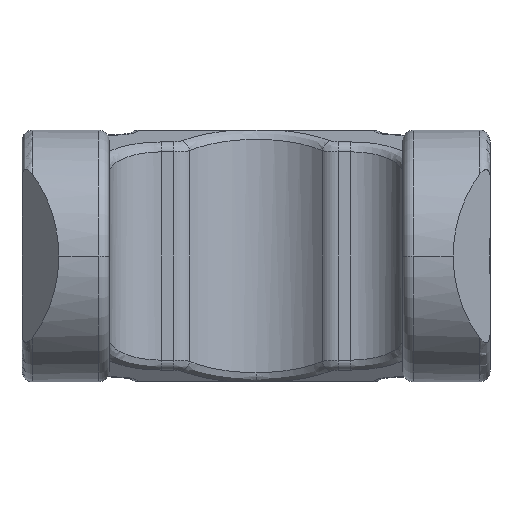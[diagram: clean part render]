
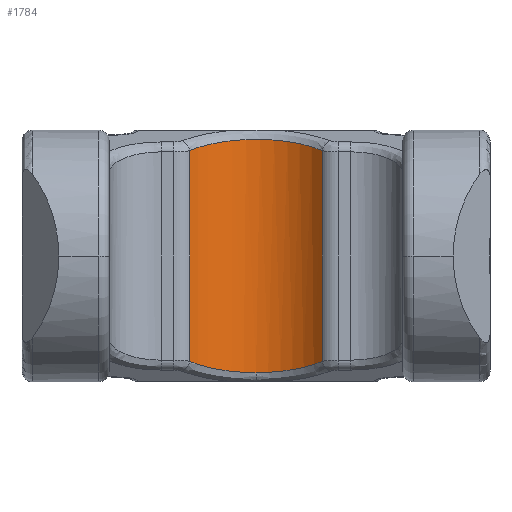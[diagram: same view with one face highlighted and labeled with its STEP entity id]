
A CAD part, front view. The second image highlights one B-rep face of the part: STEP entity #1784.
In plain terms, the highlighted cylindrical face has radius 8.5 mm (diameter 17 mm), a partial arc.
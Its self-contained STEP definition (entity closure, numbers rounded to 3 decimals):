
#85 = AXIS2_PLACEMENT_3D ( 'NONE', #1493, #1790, #187 ) ;
#187 = DIRECTION ( 'NONE',  ( 1., 0., 0. ) ) ;
#280 = CARTESIAN_POINT ( 'NONE',  ( -22.3, -8.5, 1677.476 ) ) ;
#406 = CARTESIAN_POINT ( 'NONE',  ( -15.964, -11.333, 1698.624 ) ) ;
#638 =( BOUNDED_CURVE ( )  B_SPLINE_CURVE ( 3, ( #2641, #2909, #2259, #280 ),
 .UNSPECIFIED., .F., .F. ) 
 B_SPLINE_CURVE_WITH_KNOTS ( ( 4, 4 ),
 ( 5.442, 6.283 ),
 .UNSPECIFIED. ) 
 CURVE ( )  GEOMETRIC_REPRESENTATION_ITEM ( )  RATIONAL_B_SPLINE_CURVE ( ( 1., 0.942, 0.942, 1. ) ) 
 REPRESENTATION_ITEM ( '' )  );
#682 = CARTESIAN_POINT ( 'NONE',  ( -28.636, -11.333, 1678.555 ) ) ;
#765 = CARTESIAN_POINT ( 'NONE',  ( -28.636, -11.333, 1707.59 ) ) ;
#777 = CARTESIAN_POINT ( 'NONE',  ( -28.636, -11.333, 1698.624 ) ) ;
#784 = CARTESIAN_POINT ( 'NONE',  ( -17.602, -9.503, 1677.858 ) ) ;
#999 = VERTEX_POINT ( 'NONE', #2892 ) ;
#1045 = CARTESIAN_POINT ( 'NONE',  ( -28.636, -11.333, 1698.624 ) ) ;
#1064 = EDGE_LOOP ( 'NONE', ( #1947, #1105, #3387, #1847, #2269 ) ) ;
#1105 = ORIENTED_EDGE ( 'NONE', *, *, #3763, .T. ) ;
#1260 = VECTOR ( 'NONE', #2718, 1000. ) ;
#1493 = CARTESIAN_POINT ( 'NONE',  ( -22.3, -17., 1707.59 ) ) ;
#1495 = DIRECTION ( 'NONE',  ( 0., 0., 1. ) ) ;
#1627 = VERTEX_POINT ( 'NONE', #682 ) ;
#1639 = CARTESIAN_POINT ( 'NONE',  ( -19.585, -7.286, 1700.166 ) ) ;
#1689 = CARTESIAN_POINT ( 'NONE',  ( -25.015, -7.286, 1700.166 ) ) ;
#1784 = ADVANCED_FACE ( 'NONE', ( #4057 ), #3123, .F. ) ;
#1790 = DIRECTION ( 'NONE',  ( 0., 0., -1. ) ) ;
#1847 = ORIENTED_EDGE ( 'NONE', *, *, #2828, .T. ) ;
#1947 = ORIENTED_EDGE ( 'NONE', *, *, #2952, .T. ) ;
#2259 = CARTESIAN_POINT ( 'NONE',  ( -24.756, -8.5, 1677.476 ) ) ;
#2269 = ORIENTED_EDGE ( 'NONE', *, *, #2525, .T. ) ;
#2278 = EDGE_CURVE ( 'NONE', #2383, #1627, #2549, .T. ) ;
#2383 = VERTEX_POINT ( 'NONE', #777 ) ;
#2477 = CARTESIAN_POINT ( 'NONE',  ( -19.844, -8.5, 1677.476 ) ) ;
#2487 = CARTESIAN_POINT ( 'NONE',  ( -15.964, -11.333, 1678.555 ) ) ;
#2525 = EDGE_CURVE ( 'NONE', #999, #4165, #3096, .T. ) ;
#2549 = LINE ( 'NONE', #765, #1260 ) ;
#2641 = CARTESIAN_POINT ( 'NONE',  ( -28.636, -11.333, 1678.555 ) ) ;
#2658 = VERTEX_POINT ( 'NONE', #406 ) ;
#2718 = DIRECTION ( 'NONE',  ( 0., 0., -1. ) ) ;
#2828 = EDGE_CURVE ( 'NONE', #1627, #999, #638, .T. ) ;
#2892 = CARTESIAN_POINT ( 'NONE',  ( -22.3, -8.5, 1677.476 ) ) ;
#2909 = CARTESIAN_POINT ( 'NONE',  ( -26.998, -9.503, 1677.858 ) ) ;
#2952 = EDGE_CURVE ( 'NONE', #4165, #2658, #3310, .T. ) ;
#3096 =( BOUNDED_CURVE ( )  B_SPLINE_CURVE ( 3, ( #3114, #2477, #784, #2487 ),
 .UNSPECIFIED., .F., .F. ) 
 B_SPLINE_CURVE_WITH_KNOTS ( ( 4, 4 ),
 ( 0., 0.841 ),
 .UNSPECIFIED. ) 
 CURVE ( )  GEOMETRIC_REPRESENTATION_ITEM ( )  RATIONAL_B_SPLINE_CURVE ( ( 1., 0.942, 0.942, 1. ) ) 
 REPRESENTATION_ITEM ( '' )  );
#3114 = CARTESIAN_POINT ( 'NONE',  ( -22.3, -8.5, 1677.476 ) ) ;
#3123 = CYLINDRICAL_SURFACE ( 'NONE', #85, 8.5 ) ;
#3310 = LINE ( 'NONE', #3789, #3757 ) ;
#3387 = ORIENTED_EDGE ( 'NONE', *, *, #2278, .T. ) ;
#3441 =( BOUNDED_CURVE ( )  B_SPLINE_CURVE ( 3, ( #3595, #1639, #1689, #1045 ),
 .UNSPECIFIED., .F., .F. ) 
 B_SPLINE_CURVE_WITH_KNOTS ( ( 4, 4 ),
 ( 2.301, 3.983 ),
 .UNSPECIFIED. ) 
 CURVE ( )  GEOMETRIC_REPRESENTATION_ITEM ( )  RATIONAL_B_SPLINE_CURVE ( ( 1., 0.778, 0.778, 1. ) ) 
 REPRESENTATION_ITEM ( '' )  );
#3595 = CARTESIAN_POINT ( 'NONE',  ( -15.964, -11.333, 1698.624 ) ) ;
#3757 = VECTOR ( 'NONE', #1495, 1000. ) ;
#3763 = EDGE_CURVE ( 'NONE', #2658, #2383, #3441, .T. ) ;
#3789 = CARTESIAN_POINT ( 'NONE',  ( -15.964, -11.333, 1707.59 ) ) ;
#4057 = FACE_OUTER_BOUND ( 'NONE', #1064, .T. ) ;
#4165 = VERTEX_POINT ( 'NONE', #4200 ) ;
#4200 = CARTESIAN_POINT ( 'NONE',  ( -15.964, -11.333, 1678.555 ) ) ;
